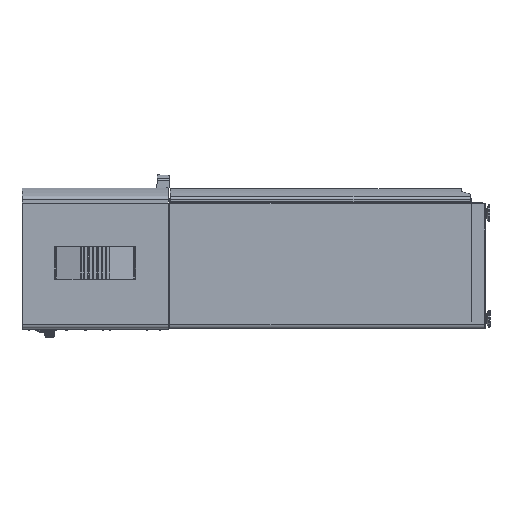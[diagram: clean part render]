
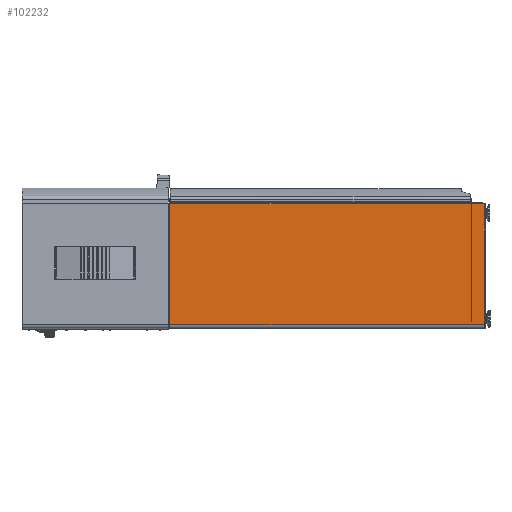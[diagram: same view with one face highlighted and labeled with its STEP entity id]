
A CAD part, left-side view. The second image highlights one B-rep face of the part: STEP entity #102232.
In plain terms, the highlighted planar face has unit normal (-1, 0, 0).
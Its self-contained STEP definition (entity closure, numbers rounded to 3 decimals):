
#181 = ORIENTED_EDGE ( 'NONE', *, *, #50709, .T. ) ;
#6887 = VERTEX_POINT ( 'NONE', #119192 ) ;
#6953 = VERTEX_POINT ( 'NONE', #86218 ) ;
#7874 = EDGE_CURVE ( 'NONE', #55542, #13480, #72433, .T. ) ;
#9993 = DIRECTION ( 'NONE',  ( 0., 1., 0. ) ) ;
#10182 = CARTESIAN_POINT ( 'NONE',  ( 148.85, 52.286, 864.902 ) ) ;
#11696 = CARTESIAN_POINT ( 'NONE',  ( 148.85, 501.336, 510.962 ) ) ;
#13480 = VERTEX_POINT ( 'NONE', #26595 ) ;
#15842 = ORIENTED_EDGE ( 'NONE', *, *, #79270, .T. ) ;
#19173 = VECTOR ( 'NONE', #26146, 1000. ) ;
#20311 = CARTESIAN_POINT ( 'NONE',  ( 148.85, 950.386, 520.962 ) ) ;
#26146 = DIRECTION ( 'NONE',  ( 0., 0., 1. ) ) ;
#26595 = CARTESIAN_POINT ( 'NONE',  ( 148.85, 52.286, 864.902 ) ) ;
#30082 = LINE ( 'NONE', #20311, #42342 ) ;
#32079 = CARTESIAN_POINT ( 'NONE',  ( 148.85, 948.586, 520.962 ) ) ;
#35991 = VERTEX_POINT ( 'NONE', #32079 ) ;
#37170 = CARTESIAN_POINT ( 'NONE',  ( 148.85, 948.586, 863.902 ) ) ;
#42342 = VECTOR ( 'NONE', #9993, 1000. ) ;
#43735 = EDGE_CURVE ( 'NONE', #55542, #35991, #30082, .T. ) ;
#45441 = AXIS2_PLACEMENT_3D ( 'NONE', #11696, #95760, #78670 ) ;
#46912 = ORIENTED_EDGE ( 'NONE', *, *, #67871, .F. ) ;
#50709 = EDGE_CURVE ( 'NONE', #6887, #35991, #95206, .T. ) ;
#53578 = DIRECTION ( 'NONE',  ( 0., 0., 1. ) ) ;
#55542 = VERTEX_POINT ( 'NONE', #76340 ) ;
#60564 = VECTOR ( 'NONE', #53578, 1000. ) ;
#63316 = EDGE_LOOP ( 'NONE', ( #15842, #46912, #181, #101815, #72367 ) ) ;
#66191 = DIRECTION ( 'NONE',  ( 0., 1., 0. ) ) ;
#67871 = EDGE_CURVE ( 'NONE', #6887, #6953, #98099, .T. ) ;
#72367 = ORIENTED_EDGE ( 'NONE', *, *, #7874, .T. ) ;
#72433 = LINE ( 'NONE', #118157, #19173 ) ;
#75823 = VECTOR ( 'NONE', #113300, 1000. ) ;
#76340 = CARTESIAN_POINT ( 'NONE',  ( 148.85, 52.286, 520.962 ) ) ;
#78670 = DIRECTION ( 'NONE',  ( 0., 0., -1. ) ) ;
#79270 = EDGE_CURVE ( 'NONE', #13480, #6953, #93625, .T. ) ;
#86218 = CARTESIAN_POINT ( 'NONE',  ( 148.85, 948.586, 864.902 ) ) ;
#90151 = CARTESIAN_POINT ( 'NONE',  ( 148.85, 948.586, 544.997 ) ) ;
#93625 = LINE ( 'NONE', #10182, #104062 ) ;
#95160 = FACE_OUTER_BOUND ( 'NONE', #63316, .T. ) ;
#95206 = LINE ( 'NONE', #37170, #75823 ) ;
#95760 = DIRECTION ( 'NONE',  ( 1., 0., 0. ) ) ;
#98099 = LINE ( 'NONE', #90151, #60564 ) ;
#101815 = ORIENTED_EDGE ( 'NONE', *, *, #43735, .F. ) ;
#102232 = ADVANCED_FACE ( 'NONE', ( #95160 ), #113457, .F. ) ;
#104062 = VECTOR ( 'NONE', #66191, 1000. ) ;
#113300 = DIRECTION ( 'NONE',  ( 0., 0., -1. ) ) ;
#113457 = PLANE ( 'NONE',  #45441 ) ;
#118157 = CARTESIAN_POINT ( 'NONE',  ( 148.85, 52.286, 510.962 ) ) ;
#119192 = CARTESIAN_POINT ( 'NONE',  ( 148.85, 948.586, 863.902 ) ) ;
